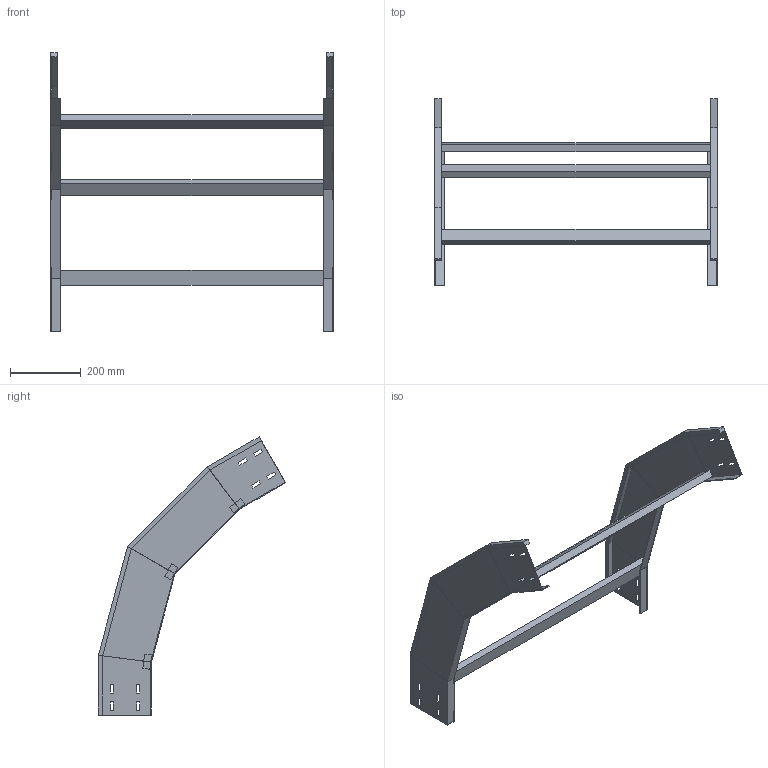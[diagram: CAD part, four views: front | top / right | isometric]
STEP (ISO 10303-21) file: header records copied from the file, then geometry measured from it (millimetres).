
FILE_DESCRIPTION (( 'STEP AP214' ), '1' );
FILE_NAME ('41J5F800.step', '2025-02-21T16:22:50', ( '' ), ( '' ), 'SwSTEP 2.0', 'SolidWorks 2023', '' );
FILE_SCHEMA (( 'AUTOMOTIVE_DESIGN' ));
Length unit declared in the file: millimetre
Products named in the file (3): LONGH.DISCESA_60°_H150_R500; TRAVERSINO_800; 41J5F800
Assembly tree (5 placements, depth 2):
  41J5F800
    LONGH.DISCESA_60°_H150_R500  x2
    TRAVERSINO_800  x3
Bounding box: 800 x 530.08 x 788.22 mm (x, y, z)
Volume: 2920463.6 mm3; surface area: 980796.7 mm2
Topology: 5 solids, 5 shells, 150 faces, 372 edges, 232 vertices
Faces by surface type: plane 150
Entity records: 2216 total; most frequent: CARTESIAN_POINT 372, ORIENTED_EDGE 360, DIRECTION 340, EDGE_CURVE 180, VECTOR 180, LINE 180, VERTEX_POINT 112, EDGE_LOOP 88
